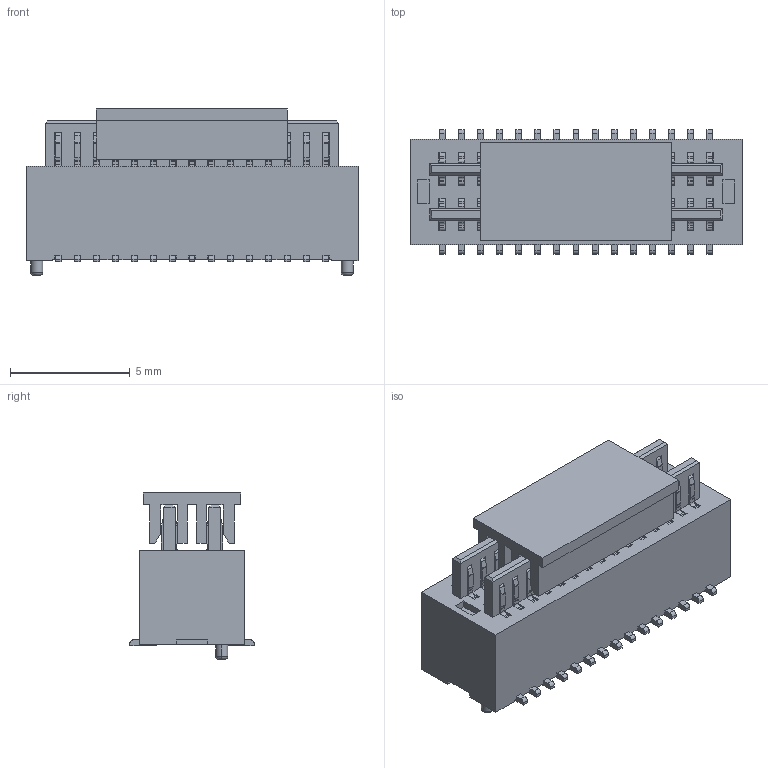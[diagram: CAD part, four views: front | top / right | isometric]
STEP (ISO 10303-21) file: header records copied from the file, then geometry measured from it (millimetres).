
FILE_DESCRIPTION (( 'STEP AP203' ), '1' );
FILE_NAME ('HC-PBB08-2-30-M-H4.0-G1-R-P-04(BTB0.8 双槽 公座 立贴 带柱 编带+盖)-HCTL.STEP', '2025-12-11T06:21:51', ( '' ), ( '' ), 'SwSTEP 2.0', 'SolidWorks 2025', '' );
FILE_SCHEMA (( 'CONFIG_CONTROL_DESIGN' ));
Products named in the file (1): HC-PBB08-2-30-M-H4.0-G1-R-P-04(BTB0.8 双槽 公座 立贴 带柱 编带+盖)-HCTL
Bounding box: 13.89 x 5.2 x 6.95 mm (x, y, z)
Volume: 297.4 mm3; surface area: 1325 mm2
Topology: 2 solids, 2 shells, 1790 faces, 5718 edges, 3728 vertices
Faces by surface type: plane 1182, cylinder 604, torus 4
Entity records: 63297 total; most frequent: CARTESIAN_POINT 11597, ORIENTED_EDGE 11436, DIRECTION 10396, EDGE_CURVE 5718, LINE 4382, VECTOR 4382, VERTEX_POINT 3728, AXIS2_PLACEMENT_3D 3007
